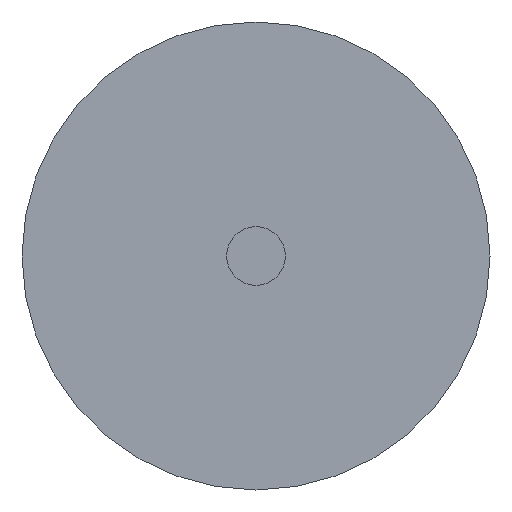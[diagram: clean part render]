
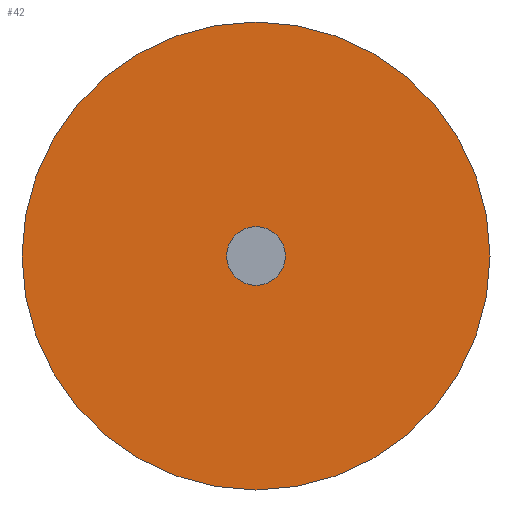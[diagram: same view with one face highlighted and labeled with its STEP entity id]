
A CAD part, left-side view. The second image highlights one B-rep face of the part: STEP entity #42.
In plain terms, the highlighted planar face has unit normal (-1, 0, 0).
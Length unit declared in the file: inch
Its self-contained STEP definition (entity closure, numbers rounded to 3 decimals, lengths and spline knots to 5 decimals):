
#14 = CARTESIAN_POINT ( 'NONE',  ( 0., 0., -0.12773 ) ) ;
#37 = PLANE ( 'NONE',  #400 ) ;
#39 = DIRECTION ( 'NONE',  ( 0., 0., 1. ) ) ;
#41 = EDGE_CURVE ( 'NONE', #906, #128, #675, .T. ) ;
#42 = ADVANCED_FACE ( 'NONE', ( #561, #953 ), #37, .F. ) ;
#118 = DIRECTION ( 'NONE',  ( 0., 0., 1. ) ) ;
#128 = VERTEX_POINT ( 'NONE', #774 ) ;
#134 = DIRECTION ( 'NONE',  ( 0., 0., 1. ) ) ;
#140 = VERTEX_POINT ( 'NONE', #1173 ) ;
#218 = CARTESIAN_POINT ( 'NONE',  ( 0., 0., 0. ) ) ;
#235 = ORIENTED_EDGE ( 'NONE', *, *, #770, .T. ) ;
#241 = ORIENTED_EDGE ( 'NONE', *, *, #957, .F. ) ;
#380 = EDGE_CURVE ( 'NONE', #776, #140, #905, .T. ) ;
#400 = AXIS2_PLACEMENT_3D ( 'NONE', #452, #860, #1264 ) ;
#452 = CARTESIAN_POINT ( 'NONE',  ( 0., 0., 0. ) ) ;
#530 = ORIENTED_EDGE ( 'NONE', *, *, #41, .F. ) ;
#561 = FACE_BOUND ( 'NONE', #581, .T. ) ;
#563 = CARTESIAN_POINT ( 'NONE',  ( 0., 0., 0. ) ) ;
#581 = EDGE_LOOP ( 'NONE', ( #530, #241 ) ) ;
#633 = DIRECTION ( 'NONE',  ( -1., 0., 0. ) ) ;
#640 = CARTESIAN_POINT ( 'NONE',  ( 0., 0., 0. ) ) ;
#653 = CARTESIAN_POINT ( 'NONE',  ( 0., 0., 0.016 ) ) ;
#657 = CARTESIAN_POINT ( 'NONE',  ( 0., 0., 0. ) ) ;
#675 = CIRCLE ( 'NONE', #1246, 0.016 ) ;
#770 = EDGE_CURVE ( 'NONE', #140, #776, #1075, .T. ) ;
#774 = CARTESIAN_POINT ( 'NONE',  ( 0., 0., -0.016 ) ) ;
#776 = VERTEX_POINT ( 'NONE', #14 ) ;
#860 = DIRECTION ( 'NONE',  ( 1., 0., 0. ) ) ;
#872 = ORIENTED_EDGE ( 'NONE', *, *, #380, .T. ) ;
#890 = AXIS2_PLACEMENT_3D ( 'NONE', #563, #955, #39 ) ;
#892 = CIRCLE ( 'NONE', #890, 0.016 ) ;
#903 = AXIS2_PLACEMENT_3D ( 'NONE', #640, #1039, #118 ) ;
#905 = CIRCLE ( 'NONE', #903, 0.12773 ) ;
#906 = VERTEX_POINT ( 'NONE', #653 ) ;
#953 = FACE_OUTER_BOUND ( 'NONE', #1068, .T. ) ;
#955 = DIRECTION ( 'NONE',  ( -1., 0., 0. ) ) ;
#957 = EDGE_CURVE ( 'NONE', #128, #906, #892, .T. ) ;
#1032 = DIRECTION ( 'NONE',  ( 0., 0., 1. ) ) ;
#1039 = DIRECTION ( 'NONE',  ( -1., 0., 0. ) ) ;
#1054 = DIRECTION ( 'NONE',  ( -1., 0., 0. ) ) ;
#1068 = EDGE_LOOP ( 'NONE', ( #235, #872 ) ) ;
#1072 = AXIS2_PLACEMENT_3D ( 'NONE', #218, #633, #1032 ) ;
#1075 = CIRCLE ( 'NONE', #1072, 0.12773 ) ;
#1173 = CARTESIAN_POINT ( 'NONE',  ( 0., 0., 0.12773 ) ) ;
#1246 = AXIS2_PLACEMENT_3D ( 'NONE', #657, #1054, #134 ) ;
#1264 = DIRECTION ( 'NONE',  ( 0., 0., -1. ) ) ;
